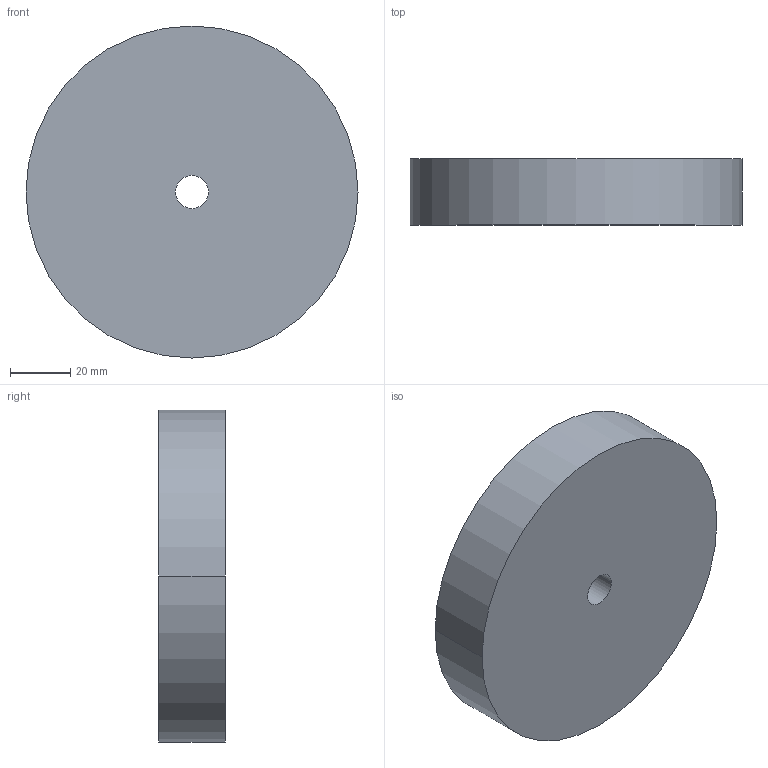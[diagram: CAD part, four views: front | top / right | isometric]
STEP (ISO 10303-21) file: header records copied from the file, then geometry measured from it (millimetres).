
FILE_DESCRIPTION((''),'1');
FILE_NAME('LALBG_size-100.step','2025-12-09T15:39:25',(''),(''),'','','');
FILE_SCHEMA(('AUTOMOTIVE_DESIGN { 1 0 10303 214 1 1 1 1 }'));
Products named in the file (1): LALBG size-100
Bounding box: 110 x 22 x 110 mm (x, y, z)
Volume: 186034.9 mm3; surface area: 28269.6 mm2
Topology: 1 solids, 1 shells, 12 faces, 24 edges, 16 vertices
Faces by surface type: cylinder 8, plane 4
Entity records: 354 total; most frequent: DIRECTION 66, CARTESIAN_POINT 53, ORIENTED_EDGE 48, AXIS2_PLACEMENT_3D 29, EDGE_CURVE 24, EDGE_LOOP 16, VERTEX_POINT 16, CIRCLE 16
